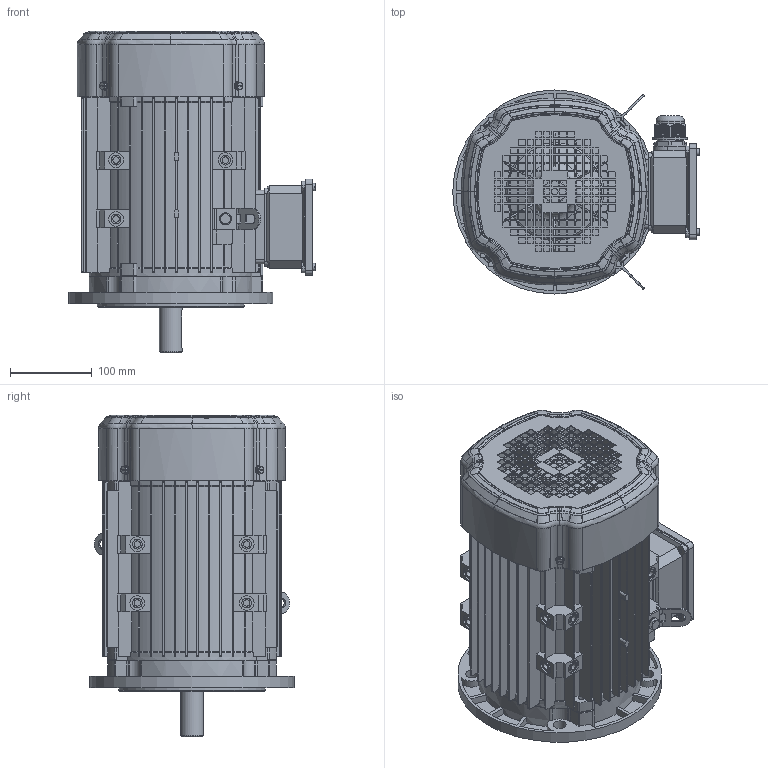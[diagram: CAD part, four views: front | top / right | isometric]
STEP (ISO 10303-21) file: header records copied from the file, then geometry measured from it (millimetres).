
FILE_DESCRIPTION(/* description */ (''),/* implementation_level */ '2;1');
FILE_NAME(/* name */ 'JL3-112-B5.stp',/* time_stamp */ '2014-09-20T08:50:02+08:00',/* author */ (''),/* organization */ (''),/* preprocessor_version */ 'ST-DEVELOPER v14',/* originating_system */ 'SIEMENS PLM Software NX 8.0',/* authorisation */ '');
FILE_SCHEMA (('AUTOMOTIVE_DESIGN { 1 0 10303 214 3 1 1 1 }'));
Length unit declared in the file: millimetre
Products named in the file (1): jl116C4AE46cza
Bounding box: 302 x 250 x 394 mm (x, y, z)
Volume: 2472026.3 mm3; surface area: 1273160.5 mm2
Topology: 46 solids, 46 shells, 4150 faces, 11665 edges, 7707 vertices
Faces by surface type: plane 2191, cylinder 1369, bspline 288, cone 156, torus 146
Full cylindrical faces by diameter (mm): 4 x4, 4.48 x8, 4.8 x10, 5 x19, 5.3 x4, 5.8 x14, 8 x34, 8.58 x2, 10 x8, 11 x2, 12 x16, 13 x3, 14.785 x2, 16 x7, 18 x16, 22 x1, 26 x3, 26.6 x1, 27 x1, 27.2 x1, 28 x1, 28.2 x3, 29 x2, 30 x16, 31 x6, 32 x18, 33 x6, 34 x6, 34.5 x1, 38 x1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
Entity records: 190059 total; most frequent: CARTESIAN_POINT 85656, ORIENTED_EDGE 22176, DIRECTION 20005, EDGE_CURVE 11088, VERTEX_POINT 7497, AXIS2_PLACEMENT_3D 6947, LINE 6111, VECTOR 6111
